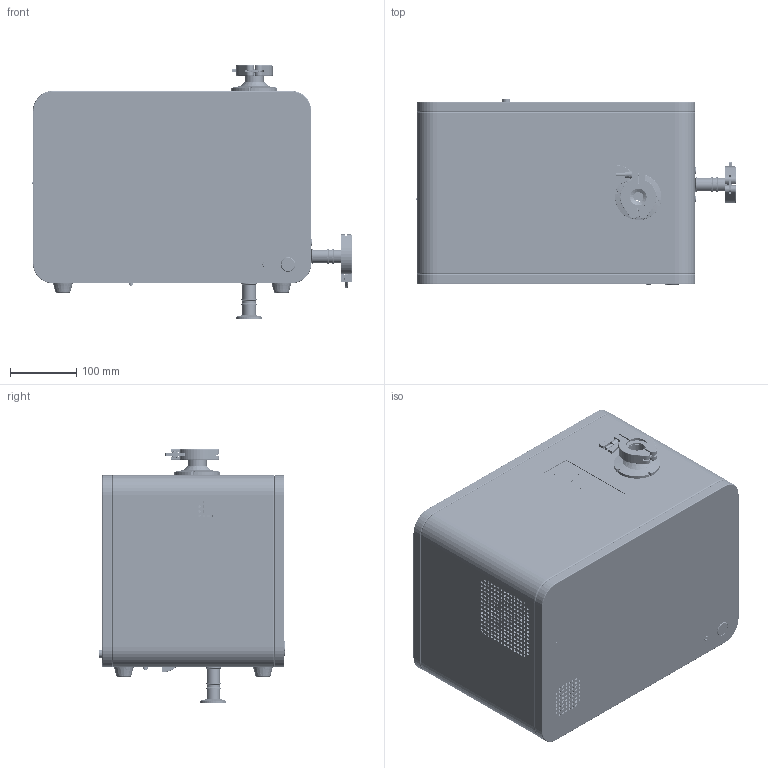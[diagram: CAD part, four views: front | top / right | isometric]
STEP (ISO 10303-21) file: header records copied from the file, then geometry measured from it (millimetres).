
FILE_DESCRIPTION (( 'STEP AP203' ), '1' );
FILE_NAME ('NY2503.00_NHJ400M模块检漏仪（外发使用）.STEP', '2026-08-28T07:16:08', ( '' ), ( '' ), 'SwSTEP 2.0', 'SolidWorks 2024', '' );
FILE_SCHEMA (( 'CONFIG_CONTROL_DESIGN' ));
Products named in the file (1): NY2503.00_NHJ400M模块检漏仪（外发使用）
Bounding box: 481.59 x 281 x 382.67 mm (x, y, z)
Volume: 1189557.4 mm3; surface area: 1588537.9 mm2
Topology: 65 solids, 67 shells, 5438 faces, 14358 edges, 9439 vertices
Faces by surface type: plane 2450, cylinder 1994, bspline 697, cone 181, torus 109, sphere 7
Entity records: 206908 total; most frequent: CARTESIAN_POINT 70799, ORIENTED_EDGE 28686, DIRECTION 26524, EDGE_CURVE 14343, VERTEX_POINT 9439, AXIS2_PLACEMENT_3D 9074, VECTOR 8376, LINE 8376
